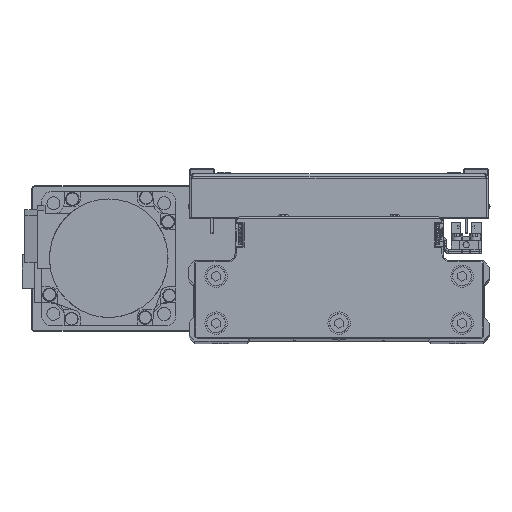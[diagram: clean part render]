
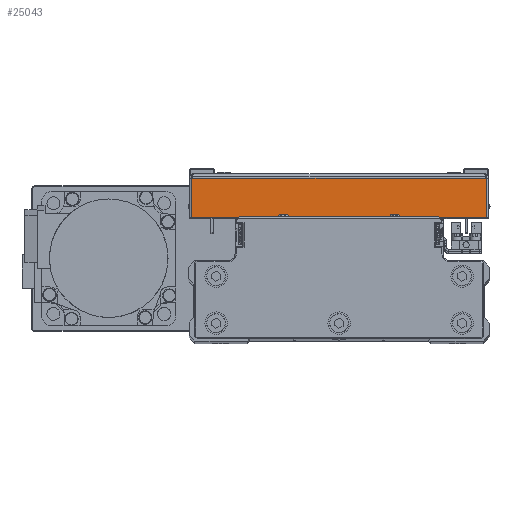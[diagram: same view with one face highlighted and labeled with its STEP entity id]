
A CAD part, top view. The second image highlights one B-rep face of the part: STEP entity #25043.
In plain terms, the highlighted planar face has unit normal (0, 0, 1) as drawn and (1, 0, 0) by its records, which use the part's own axes.
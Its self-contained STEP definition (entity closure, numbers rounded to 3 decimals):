
#1180 = LINE ( 'NONE', #14757, #14904 ) ;
#5121 = CARTESIAN_POINT ( 'NONE',  ( 100., 18.5, -65.929 ) ) ;
#7270 = ORIENTED_EDGE ( 'NONE', *, *, #33350, .T. ) ;
#7498 = VERTEX_POINT ( 'NONE', #10276 ) ;
#9795 = CARTESIAN_POINT ( 'NONE',  ( 100., 18.5, 0. ) ) ;
#9910 = EDGE_CURVE ( 'NONE', #31286, #13007, #1180, .T. ) ;
#10259 = CARTESIAN_POINT ( 'NONE',  ( 100., 1., 67. ) ) ;
#10276 = CARTESIAN_POINT ( 'NONE',  ( 100., 1., -65.929 ) ) ;
#10742 = EDGE_CURVE ( 'NONE', #7498, #31286, #40670, .T. ) ;
#11488 = EDGE_CURVE ( 'NONE', #7498, #15968, #13862, .T. ) ;
#13007 = VERTEX_POINT ( 'NONE', #42235 ) ;
#13568 = DIRECTION ( 'NONE',  ( -1., 0., 0. ) ) ;
#13862 = LINE ( 'NONE', #27423, #24780 ) ;
#14757 = CARTESIAN_POINT ( 'NONE',  ( 100., 0., 65.929 ) ) ;
#14904 = VECTOR ( 'NONE', #28329, 1000. ) ;
#15968 = VERTEX_POINT ( 'NONE', #5121 ) ;
#16896 = FACE_OUTER_BOUND ( 'NONE', #40909, .T. ) ;
#19010 = CARTESIAN_POINT ( 'NONE',  ( 100., 1., 65.929 ) ) ;
#23335 = DIRECTION ( 'NONE',  ( 0., 0., 1. ) ) ;
#23792 = DIRECTION ( 'NONE',  ( 0., 0., 1. ) ) ;
#24780 = VECTOR ( 'NONE', #40933, 1000. ) ;
#25043 = ADVANCED_FACE ( 'NONE', ( #16896 ), #30471, .F. ) ;
#26346 = VECTOR ( 'NONE', #23335, 1000. ) ;
#26472 = ORIENTED_EDGE ( 'NONE', *, *, #11488, .T. ) ;
#27077 = ORIENTED_EDGE ( 'NONE', *, *, #9910, .F. ) ;
#27127 = CARTESIAN_POINT ( 'NONE',  ( 100., 0., 0. ) ) ;
#27139 = DIRECTION ( 'NONE',  ( 0., -1., 0. ) ) ;
#27423 = CARTESIAN_POINT ( 'NONE',  ( 100., 0., -65.929 ) ) ;
#28329 = DIRECTION ( 'NONE',  ( 0., 1., 0. ) ) ;
#28514 = AXIS2_PLACEMENT_3D ( 'NONE', #27127, #13568, #27139 ) ;
#30471 = PLANE ( 'NONE',  #28514 ) ;
#31286 = VERTEX_POINT ( 'NONE', #19010 ) ;
#33350 = EDGE_CURVE ( 'NONE', #15968, #13007, #40218, .T. ) ;
#38881 = VECTOR ( 'NONE', #23792, 1000. ) ;
#40218 = LINE ( 'NONE', #9795, #26346 ) ;
#40571 = ORIENTED_EDGE ( 'NONE', *, *, #10742, .F. ) ;
#40670 = LINE ( 'NONE', #10259, #38881 ) ;
#40909 = EDGE_LOOP ( 'NONE', ( #40571, #26472, #7270, #27077 ) ) ;
#40933 = DIRECTION ( 'NONE',  ( 0., 1., 0. ) ) ;
#42235 = CARTESIAN_POINT ( 'NONE',  ( 100., 18.5, 65.929 ) ) ;
